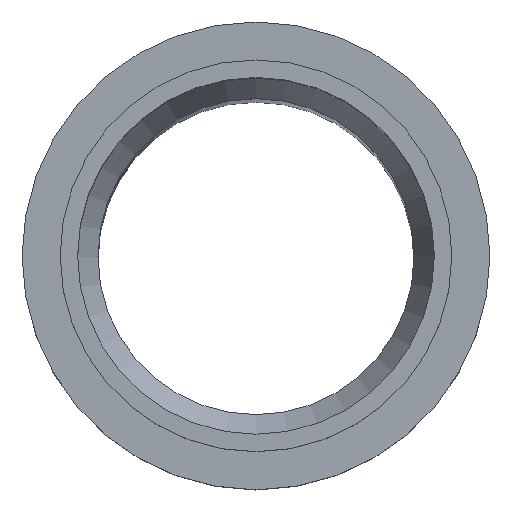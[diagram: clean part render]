
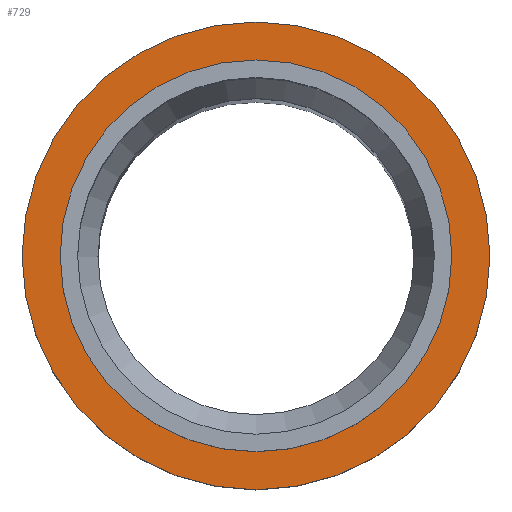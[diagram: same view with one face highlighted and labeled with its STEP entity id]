
A CAD part, top view. The second image highlights one B-rep face of the part: STEP entity #729.
In plain terms, the highlighted planar face has unit normal (0, 0, 1) as drawn and (1, 0, 0) by its records, which use the part's own axes.
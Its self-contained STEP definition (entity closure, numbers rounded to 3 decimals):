
#110=PLANE($,#811);
#138=FACE_BOUND($,#249,.T.);
#139=FACE_BOUND($,#250,.T.);
#249=EDGE_LOOP($,(#620));
#250=EDGE_LOOP($,(#621));
#299=CIRCLE($,#810,26.75);
#300=CIRCLE($,#812,22.4);
#370=VERTEX_POINT($,#1943);
#371=VERTEX_POINT($,#1946);
#457=EDGE_CURVE($,#370,#370,#299,.T.);
#458=EDGE_CURVE($,#371,#371,#300,.T.);
#620=ORIENTED_EDGE($,*,*,#458,.F.);
#621=ORIENTED_EDGE($,*,*,#457,.T.);
#729=ADVANCED_FACE($,(#138,#139),#110,.T.);
#810=AXIS2_PLACEMENT_3D($,#1944,#967,#968);
#811=AXIS2_PLACEMENT_3D($,#1945,#969,#970);
#812=AXIS2_PLACEMENT_3D($,#1947,#971,#972);
#967=DIRECTION('center_axis',(1.,0.,0.));
#968=DIRECTION('ref_axis',(0.,1.,0.));
#969=DIRECTION('center_axis',(1.,0.,0.));
#970=DIRECTION('ref_axis',(0.,0.,-1.));
#971=DIRECTION('center_axis',(1.,0.,0.));
#972=DIRECTION('ref_axis',(0.,1.,0.));
#1943=CARTESIAN_POINT('',(53.5,26.75,0.));
#1944=CARTESIAN_POINT('Origin',(53.5,0.,0.));
#1945=CARTESIAN_POINT('Origin',(53.5,24.575,0.));
#1946=CARTESIAN_POINT('',(53.5,22.4,0.));
#1947=CARTESIAN_POINT('Origin',(53.5,0.,0.));
